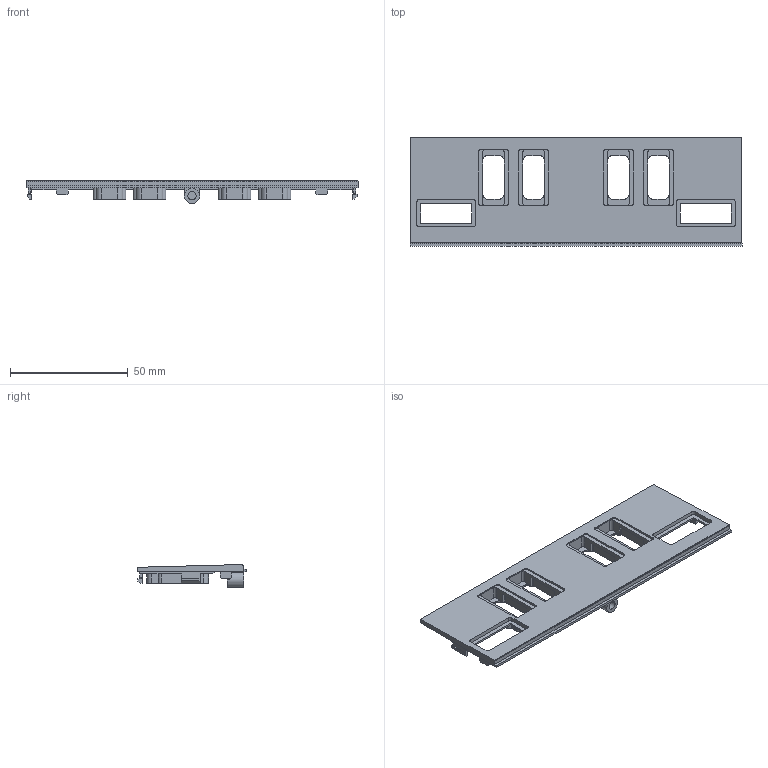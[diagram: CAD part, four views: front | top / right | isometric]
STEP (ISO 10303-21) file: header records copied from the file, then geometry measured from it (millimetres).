
FILE_DESCRIPTION((''),'2;1');
FILE_NAME('TOP_ZGB','2024-12-18T',('18137'),(''),'CREO PARAMETRIC BY PTC INC, 2016050','CREO PARAMETRIC BY PTC INC, 2016050','');
FILE_SCHEMA(('CONFIG_CONTROL_DESIGN'));
Length unit declared in the file: millimetre
Products named in the file (1): TOP_ZGB
Bounding box: 140.79 x 46.2 x 9.74 mm (x, y, z)
Volume: 14318.3 mm3; surface area: 16675.4 mm2
Topology: 1 solids, 1 shells, 410 faces, 1097 edges, 704 vertices
Faces by surface type: plane 269, cylinder 109, cone 32
Entity records: 12804 total; most frequent: CARTESIAN_POINT 2421, ORIENTED_EDGE 2194, DIRECTION 2093, EDGE_CURVE 1097, VECTOR 823, LINE 823, VERTEX_POINT 704, AXIS2_PLACEMENT_3D 635
